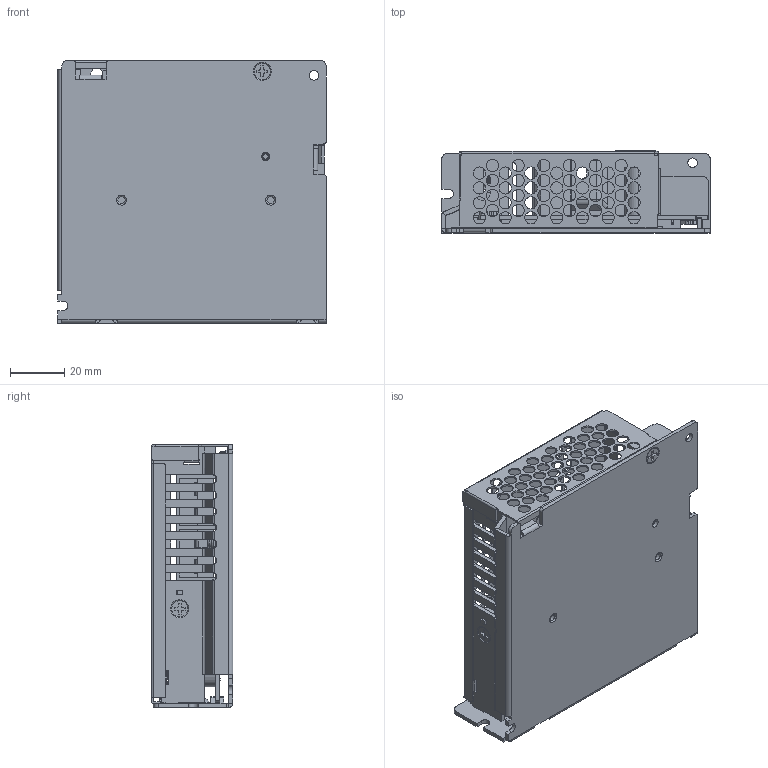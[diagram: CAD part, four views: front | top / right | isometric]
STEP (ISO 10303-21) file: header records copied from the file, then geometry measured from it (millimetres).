
FILE_DESCRIPTION((''),'2;1');
FILE_NAME('PMT-XXV75W2BX_3D_ASM','2020-01-08T',('CAREY.WENG'),(''),'CREO PARAMETRIC BY PTC INC, 2014190','CREO PARAMETRIC BY PTC INC, 2014190','');
FILE_SCHEMA(('CONFIG_CONTROL_DESIGN'));
Products named in the file (27): PMT_24V75W_PWB_COR_18_RNM; PMT-24V75W_CHASSIS_42_RNM; PMT_24V75W_INSULATOR_13; PMT-12V350W2BA_LAYOUT20190125_1; PMT-12V350W2BA_LAYOUT20190125_2; PMT-12V350W2BA_LAYOUT20190125_6_ASM; BLACK_SINGLE_2; PMT-12V75W2BA_LAYOUT0508_3; PMT-12V75W2BA_LAYOUT20190325_5; PMT_24V75W_COVER_20190326_20_1; PMT_24V75W_COVER_20190326_20_2; PMT_24V75W_COVER_20190326_20_ASM; LED_2306007105_2; VR1__1; LEG1__2; VR_LEG__ASM_3_ASM; SPECLABEL_2; 3105325100_L5_1; 3105318101_L5_2; 3105318101_L12_2; PMT-75W_LAYOUT20190827_3; PMT-75W_LAYOUT020190906_3_1; PMT-75W_LAYOUT020190906_3_2; PMT-75W_LAYOUT020190906_3_ASM; PMT-24V75W_ASM_51_RNM_ASM; YK44105030D0G; PMT-XXV75W2BX_3D_ASM
Assembly tree (28 placements, depth 4):
  PMT-XXV75W2BX_3D_ASM
    PMT-24V75W_ASM_51_RNM_ASM
      PMT_24V75W_PWB_COR_18_RNM
      PMT-24V75W_CHASSIS_42_RNM
      PMT_24V75W_INSULATOR_13
      PMT-12V350W2BA_LAYOUT20190125_6_ASM
        PMT-12V350W2BA_LAYOUT20190125_1
        PMT-12V350W2BA_LAYOUT20190125_2
      BLACK_SINGLE_2
      PMT-12V75W2BA_LAYOUT0508_3
      PMT-12V75W2BA_LAYOUT20190325_5
      PMT_24V75W_COVER_20190326_20_ASM
        PMT_24V75W_COVER_20190326_20_1
        PMT_24V75W_COVER_20190326_20_2
      LED_2306007105_2
      VR_LEG__ASM_3_ASM
        VR1__1
        LEG1__2  x3
      SPECLABEL_2
      3105325100_L5_1
      3105318101_L5_2
      3105318101_L12_2
      PMT-75W_LAYOUT20190827_3
      PMT-75W_LAYOUT020190906_3_ASM
        PMT-75W_LAYOUT020190906_3_1
        PMT-75W_LAYOUT020190906_3_2
    YK44105030D0G
Bounding box: 99 x 30.2 x 97 mm (x, y, z)
Volume: 66084.9 mm3; surface area: 102041.5 mm2
Topology: 22 solids, 22 shells, 3023 faces, 9237 edges, 6005 vertices
Faces by surface type: plane 1788, cylinder 841, bspline 284, torus 60, cone 44, sphere 6
Entity records: 137457 total; most frequent: CARTESIAN_POINT 59423, ORIENTED_EDGE 17882, DIRECTION 14098, EDGE_CURVE 8941, VERTEX_POINT 5853, VECTOR 5168, LINE 5168, AXIS2_PLACEMENT_3D 4465
